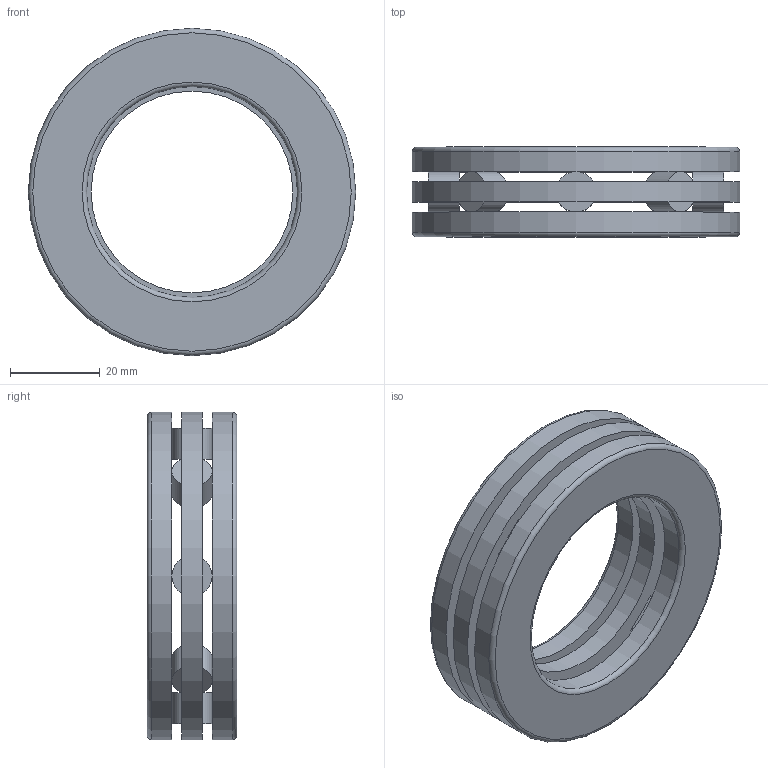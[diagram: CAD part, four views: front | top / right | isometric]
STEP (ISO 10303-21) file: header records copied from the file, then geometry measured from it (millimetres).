
FILE_DESCRIPTION(/* description */ (''),/* implementation_level */ '2;1');
FILE_NAME(/* name */ 'D:\moje\parametrické\812--\812--_\81209.stp',/* time_stamp */ '2016-08-16T14:38:56+02:00',/* author */ ('OUBALASKO'),/* organization */ (''),/* preprocessor_version */ 'ST-DEVELOPER v15.6',/* originating_system */ 'Autodesk Inventor 2015',/* authorisation */ '');
FILE_SCHEMA (('AUTOMOTIVE_DESIGN { 1 0 10303 214 3 1 1 }'));
Length unit declared in the file: millimetre
Products named in the file (6): GS81209; WS81209; 81209-cage; 81209-roller; K81209TNG; 81209
Assembly tree (12 placements, depth 3):
  81209
    GS81209
    WS81209
    K81209TNG
      81209-cage
      81209-roller  x8
Bounding box: 73 x 20 x 73 mm (x, y, z)
Volume: 40334.3 mm3; surface area: 23435.2 mm2
Topology: 11 solids, 11 shells, 72 faces, 146 edges, 96 vertices
Faces by surface type: plane 54, cylinder 14, torus 4
Full cylindrical faces by diameter (mm): 9 x8, 45 x2, 47 x1, 73 x3
Entity records: 1657 total; most frequent: DIRECTION 270, CARTESIAN_POINT 265, ORIENTED_EDGE 228, EDGE_CURVE 114, LINE 96, VECTOR 96, AXIS2_PLACEMENT_3D 87, EDGE_LOOP 84
